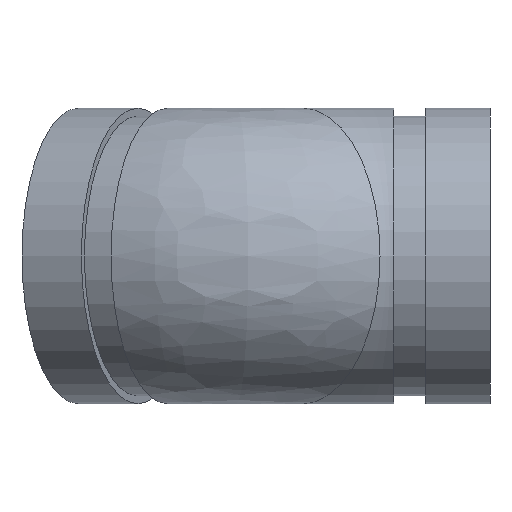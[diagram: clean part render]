
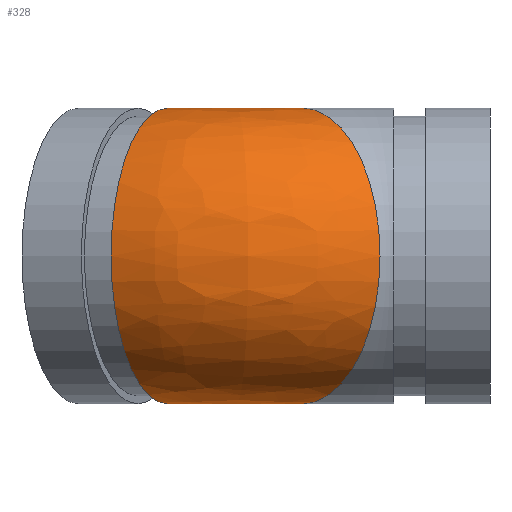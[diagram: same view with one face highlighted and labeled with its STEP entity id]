
A CAD part, left-side view. The second image highlights one B-rep face of the part: STEP entity #328.
In plain terms, the highlighted free-form (B-spline) face has degree [2, 2] with [9, 3] control points.
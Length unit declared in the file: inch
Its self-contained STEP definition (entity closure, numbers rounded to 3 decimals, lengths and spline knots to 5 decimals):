
#63=(
BOUNDED_SURFACE()
B_SPLINE_SURFACE(2,2,((#592,#593,#594),(#595,#596,#597),(#598,#599,#600),
(#601,#602,#603),(#604,#605,#606),(#607,#608,#609),(#610,#611,#612),(#613,
#614,#615),(#616,#617,#618)),.UNSPECIFIED.,.T.,.F.,.F.)
B_SPLINE_SURFACE_WITH_KNOTS((3,2,2,2,3),(3,3),(-3.14159,-1.5708,
0.,1.5708,3.14159),(-0.55468,0.3927),
 .UNSPECIFIED.)
GEOMETRIC_REPRESENTATION_ITEM()
RATIONAL_B_SPLINE_SURFACE(((1.,0.89,1.),(0.707,
0.629,0.707),(1.,0.89,1.),(0.707,
0.629,0.707),(1.,0.89,1.),(0.707,
0.629,0.707),(1.,0.89,1.),(0.707,
0.629,0.707),(1.,0.89,1.)))
REPRESENTATION_ITEM('')
SURFACE()
);
#77=FACE_OUTER_BOUND('',#95,.T.);
#95=EDGE_LOOP('',(#238,#239,#240));
#115=CIRCLE('',#366,1.4375);
#127=CIRCLE('',#380,1.4375);
#128=CIRCLE('',#381,1.4375);
#150=VERTEX_POINT('',#568);
#160=VERTEX_POINT('',#619);
#181=EDGE_CURVE('',#150,#150,#115,.T.);
#193=EDGE_CURVE('',#150,#160,#127,.T.);
#194=EDGE_CURVE('',#160,#150,#128,.T.);
#238=ORIENTED_EDGE('',*,*,#193,.T.);
#239=ORIENTED_EDGE('',*,*,#194,.T.);
#240=ORIENTED_EDGE('',*,*,#181,.F.);
#328=ADVANCED_FACE('',(#77),#63,.F.);
#366=AXIS2_PLACEMENT_3D('',#569,#437,#438);
#380=AXIS2_PLACEMENT_3D('',#620,#465,#466);
#381=AXIS2_PLACEMENT_3D('',#621,#467,#468);
#437=DIRECTION('center_axis',(0.383,0.924,0.));
#438=DIRECTION('ref_axis',(-0.924,0.383,0.));
#465=DIRECTION('center_axis',(-0.527,0.85,0.));
#466=DIRECTION('ref_axis',(-0.85,-0.527,0.));
#467=DIRECTION('center_axis',(-0.527,0.85,0.));
#468=DIRECTION('ref_axis',(-0.85,-0.527,0.));
#568=CARTESIAN_POINT('',(0.96912,2.58329,0.));
#569=CARTESIAN_POINT('Origin',(-0.35896,3.1334,0.));
#592=CARTESIAN_POINT('Ctrl Pts',(0.96912,2.58329,0.));
#593=CARTESIAN_POINT('Ctrl Pts',(0.96912,2.58329,0.));
#594=CARTESIAN_POINT('Ctrl Pts',(0.96912,2.58329,0.));
#595=CARTESIAN_POINT('Ctrl Pts',(0.96912,2.58329,1.4375));
#596=CARTESIAN_POINT('Ctrl Pts',(0.96912,2.58329,1.4375));
#597=CARTESIAN_POINT('Ctrl Pts',(0.96912,2.58329,1.4375));
#598=CARTESIAN_POINT('Ctrl Pts',(-0.25285,1.8262,1.4375));
#599=CARTESIAN_POINT('Ctrl Pts',(-0.64095,2.4526,1.4375));
#600=CARTESIAN_POINT('Ctrl Pts',(-0.35896,3.1334,1.4375));
#601=CARTESIAN_POINT('Ctrl Pts',(-1.47482,1.0691,1.4375));
#602=CARTESIAN_POINT('Ctrl Pts',(-2.25102,2.32191,1.4375));
#603=CARTESIAN_POINT('Ctrl Pts',(-1.68703,3.68351,1.4375));
#604=CARTESIAN_POINT('Ctrl Pts',(-1.47482,1.0691,0.));
#605=CARTESIAN_POINT('Ctrl Pts',(-2.25102,2.32191,0.));
#606=CARTESIAN_POINT('Ctrl Pts',(-1.68703,3.68351,0.));
#607=CARTESIAN_POINT('Ctrl Pts',(-1.47482,1.0691,-1.4375));
#608=CARTESIAN_POINT('Ctrl Pts',(-2.25102,2.32191,-1.4375));
#609=CARTESIAN_POINT('Ctrl Pts',(-1.68703,3.68351,-1.4375));
#610=CARTESIAN_POINT('Ctrl Pts',(-0.25285,1.8262,-1.4375));
#611=CARTESIAN_POINT('Ctrl Pts',(-0.64095,2.4526,-1.4375));
#612=CARTESIAN_POINT('Ctrl Pts',(-0.35896,3.1334,-1.4375));
#613=CARTESIAN_POINT('Ctrl Pts',(0.96912,2.58329,-1.4375));
#614=CARTESIAN_POINT('Ctrl Pts',(0.96912,2.58329,-1.4375));
#615=CARTESIAN_POINT('Ctrl Pts',(0.96912,2.58329,-1.4375));
#616=CARTESIAN_POINT('Ctrl Pts',(0.96912,2.58329,0.));
#617=CARTESIAN_POINT('Ctrl Pts',(0.96912,2.58329,0.));
#618=CARTESIAN_POINT('Ctrl Pts',(0.96912,2.58329,0.));
#619=CARTESIAN_POINT('',(-1.47482,1.0691,0.));
#620=CARTESIAN_POINT('Origin',(-0.25285,1.8262,0.));
#621=CARTESIAN_POINT('Origin',(-0.25285,1.8262,0.));
